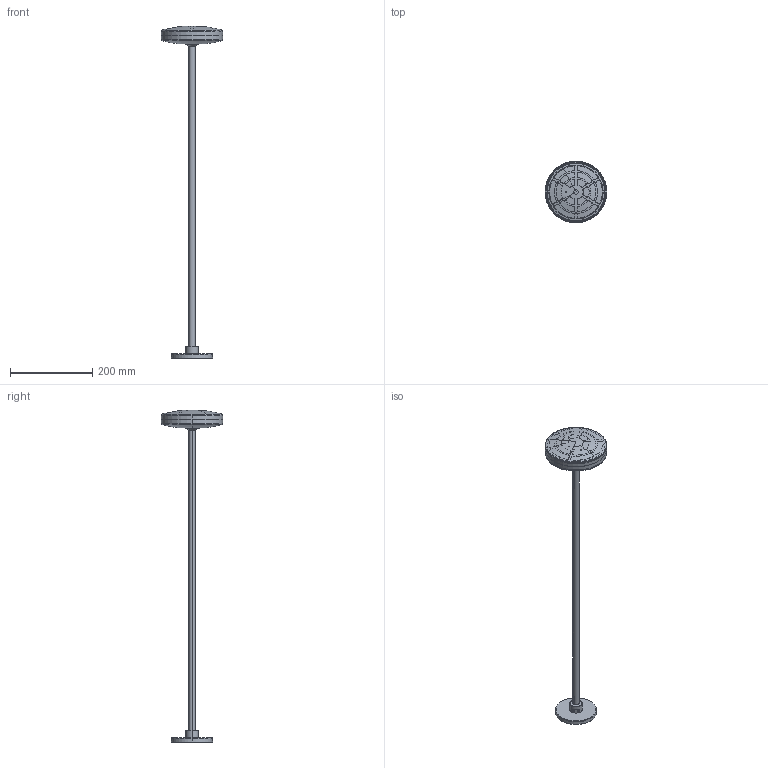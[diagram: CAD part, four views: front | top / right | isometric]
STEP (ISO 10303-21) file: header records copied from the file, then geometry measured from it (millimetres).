
FILE_DESCRIPTION(('CATIA V5 STEP Exchange'),'2;1');
FILE_NAME('E:\GaaPro\luo\5.待开发项目\2.草坪灯\AJ-0210\AJ-0210-800\AJ-0210_800.stp','2024-06-24T06:00:12+00:00',('none'),('none'),'CATIA Version 5-6 Release 2018','CATIA V5 STEP AP203','none');
FILE_SCHEMA(('CONFIG_CONTROL_DESIGN'));
Length unit declared in the file: millimetre
Products named in the file (1): Product3
Assembly tree (8 placements, depth 2):
  Product3
    #57
    #8925
    #12215
    #13285
    #14222
    #20830
    #22994
    #28122
Bounding box: 150 x 149.97 x 807.8 mm (x, y, z)
Volume: 233921.7 mm3; surface area: 260499.9 mm2
Topology: 51 solids, 51 shells, 987 faces, 2459 edges, 1619 vertices
Faces by surface type: plane 396, cone 327, cylinder 190, torus 24, sphere 19, extrusion 16, revolution 12, bspline 3
Entity records: 28262 total; most frequent: CARTESIAN_POINT 6629, ORIENTED_EDGE 4914, DIRECTION 3383, EDGE_CURVE 2457, VERTEX_POINT 1619, AXIS2_PLACEMENT_3D 1530, VECTOR 1272, LINE 1256
